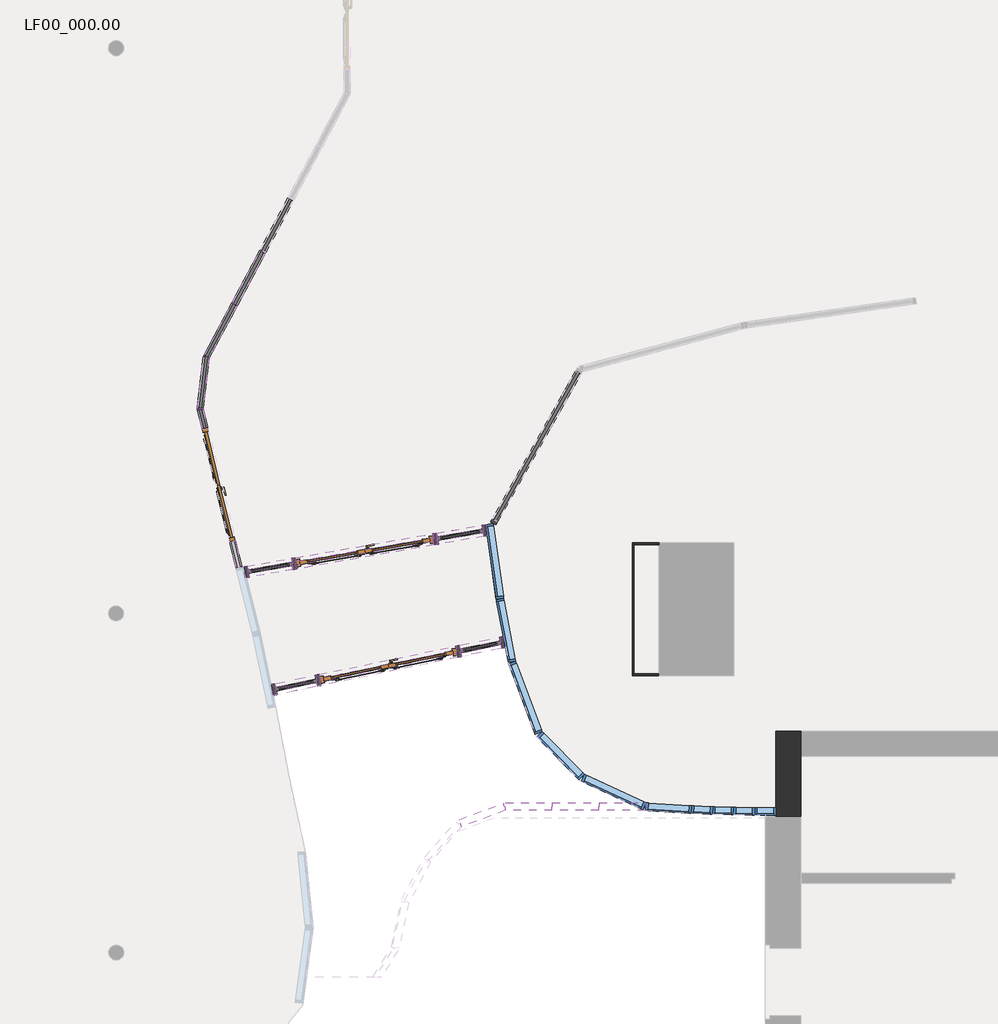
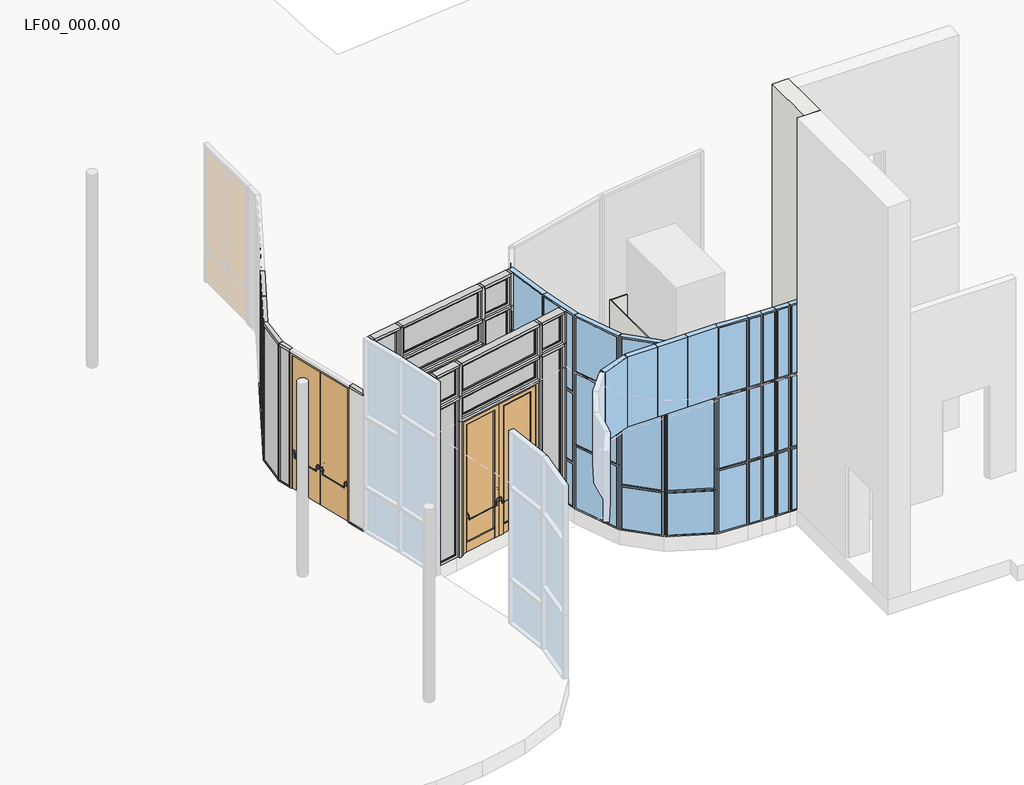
# One storey, part 2 of 8: 57 members, 18 plates, 14 windows, 4 walls, 3 doors.
"""IFC4 building model written with IfcOpenShell, lengths in millimetres."""

from ifc_helpers import new_model, si_unit, origin, origin_with_axes, place, context, project, spatial, polyline, outline, extrude, faceted_brep, transform, mapped, element, save
from components import door_f6d3ca97, ve_154_4ed43ff9, montante_rettangolare_ac_025x025_ae409ff8, montante_rettangolare_ac_025x025_ba0b5886, montante_rettangolare_ac_025x025_25a4d1a1, montante_rettangolare_ac_025x025_28f09506, montante_rettangolare_ac_025x025_21ed5f5e, montante_rettangolare_ac_025x025_67f37333, montante_rettangolare_ac_025x025_8a5c9500, montante_rettangolare_ac_025x025_512be482, montante_rettangolare_ac_025x025_d0ddf7e4, montante_rettangolare_ac_025x025_b97b00cb, montante_rettangolare_ac_025x025_64329925, montante_rettangolare_ac_025x025_9704a091, montante_rettangolare_ac_025x025_64d38db8, montante_rettangolare_ac_025x025_a43bc5c3, montante_rettangolare_ac_080x010_85614832, montante_rettangolare_ac_080x010_f14e0e64, montante_rettangolare_ac_080x020_0aace36a, montante_rettangolare_ac_080x020_0cad4226, montante_rettangolare_ac_080x020_8fa086c5, montante_rettangolare_ac_080x020_566639ae, montante_rettangolare_ac_080x020_745d10ed, montante_rettangolare_ac_080x050_10f1333b, montante_rettangolare_ac_080x050_40be3790, montante_rettangolare_ac_080x050_321416b7, montante_rettangolare_ac_080x050_0467c740, montante_rettangolare_ac_080x050_3b2be03d, montante_rettangolare_ac_080x050_6bba0ead, montante_rettangolare_ac_080x050_4a988d0e, al_005_dea4e61d, al_005_716bf069, al_005_3c8699a7, al_005_14935a9d, al_005_6a2d727c, ve3_036_90e3407d, ve3_036_397baf72, ve3_036_28023d53, ve3_036_5d8ee60f, ve3_036_85d96793, ve_005_c46f1006, ve_005_f4ff7d61, ve_005_d4007ce6, ve_005_b225966d, ve_005_ac013490, window_1ec7cec5, window_26246464, window_1ea6608f, window_8ab5537a, window_40431090, window_19409f7d, window_feeec594, al_62_ab90a766

model = new_model("IFC4")

# Units and contexts
model_context = context("Model", 3, world=origin())
ifc_project = project(units=[si_unit("LENGTHUNIT", "METRE", prefix="MILLI")], contexts=[model_context])

# Site, building, storey
site = spatial("IfcSite", under=ifc_project)
building = spatial("IfcBuilding", under=site)
storey = spatial("IfcBuildingStorey", under=building, Name="LF00_000.00", Elevation=0.0)

# Doors
placement = place(None, origin())
door_shape = door_f6d3ca97(model_context)
element("IfcDoor", 1, ObjectType="TRP_CP_ARC_PO_2B_PM : AL_VE_005", at=placement, inside=storey, context=model_context, shape_type="MappedRepresentation", body=[
    mapped(door_shape, transform((-90413.2062579, 2119.845194, 0.0), x_axis=(0.9792416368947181, 0.2026963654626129, 0.0), y_axis=(-0.2026963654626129, 0.9792416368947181, 0.0), z_axis=(0.0, 0.0, 1.0))),
])
element("IfcDoor", 2, ObjectType="TRP_CP_ARC_PO_2B_PM : AL_VE_005", at=placement, inside=storey, context=model_context, shape_type="MappedRepresentation", body=[
    mapped(door_shape, transform((-90723.753125, 3639.8337455, 0.0), x_axis=(0.9851406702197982, 0.17174941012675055, 0.0), y_axis=(-0.17174941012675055, 0.9851406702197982, 0.0), z_axis=(0.0, 0.0, 1.0))),
])
ve_154_shape = ve_154_4ed43ff9(model_context)
element("IfcDoor", 3, ObjectType="TRP_CP_ARC_PO_2B_RE : VE_154", at=placement, inside=storey, context=model_context, shape_type="MappedRepresentation", body=[
    mapped(ve_154_shape, transform((-92664.5246204, 4522.3687385, 0.0), x_axis=(0.23693617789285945, -0.9715252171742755, 0.0), y_axis=(0.9715252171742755, 0.23693617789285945, 0.0), z_axis=(0.0, 0.0, 1.0))),
])

# Members
montante_rettangolare_ac_025x025_shape = montante_rettangolare_ac_025x025_ae409ff8(model_context)
element("IfcMember", 4, ObjectType="Montante rettangolare : AC_025x025", at=placement, inside=storey, context=model_context, shape_type="MappedRepresentation", body=[
    mapped(montante_rettangolare_ac_025x025_shape, transform((-91956.585778, 1800.3761197, 4199.970898), x_axis=(-0.9792416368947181, -0.2026963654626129, 0.0), y_axis=(0.2026963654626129, -0.9792416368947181, 0.0), z_axis=(0.0, 0.0, 1.0))),
])
element("IfcMember", 5, ObjectType="Montante rettangolare : AC_025x025", at=placement, inside=storey, context=model_context, shape_type="MappedRepresentation", body=[
    mapped(montante_rettangolare_ac_025x025_shape, transform((-92324.6067141, 3360.7409541, 4199.970898), x_axis=(-0.9851406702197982, -0.17174941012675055, 0.0), y_axis=(0.17174941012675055, -0.9851406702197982, 0.0), z_axis=(0.0, 0.0, 1.0))),
])
element("IfcMember", 6, ObjectType="Montante rettangolare : AC_025x025", at=placement, inside=storey, context=model_context, shape_type="MappedRepresentation", body=[
    mapped(montante_rettangolare_ac_025x025_shape, transform((-88873.9324728, 2438.4644091, 3500.0), x_axis=(0.9792416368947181, 0.2026963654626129, 0.0), y_axis=(0.2026963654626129, -0.9792416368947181, 0.0), z_axis=(0.0, 0.0, -1.0))),
])
element("IfcMember", 7, ObjectType="Montante rettangolare : AC_025x025", at=placement, inside=storey, context=model_context, shape_type="MappedRepresentation", body=[
    mapped(montante_rettangolare_ac_025x025_shape, transform((-89107.5816752, 3921.5970526, 3500.0), x_axis=(0.9851406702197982, 0.17174941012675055, 0.0), y_axis=(0.17174941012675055, -0.9851406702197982, 0.0), z_axis=(0.0, 0.0, -1.0))),
])
montante_rettangolare_ac_025x025_2_shape = montante_rettangolare_ac_025x025_ba0b5886(model_context)
element("IfcMember", 8, ObjectType="Montante rettangolare : AC_025x025", at=placement, inside=storey, context=model_context, shape_type="MappedRepresentation", body=[
    mapped(montante_rettangolare_ac_025x025_2_shape, transform((-91343.4858129, 1927.2836469, 3500.0), x_axis=(0.9792416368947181, 0.2026963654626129, 0.0), y_axis=(0.2026963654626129, -0.9792416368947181, 0.0), z_axis=(0.0, 0.0, -1.0))),
])
element("IfcMember", 9, ObjectType="Montante rettangolare : AC_025x025", at=placement, inside=storey, context=model_context, shape_type="MappedRepresentation", body=[
    mapped(montante_rettangolare_ac_025x025_2_shape, transform((-89482.9267028, 2312.4067412, 3500.0), x_axis=(0.9792416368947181, 0.2026963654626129, 0.0), y_axis=(0.2026963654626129, -0.9792416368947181, 0.0), z_axis=(0.0, 0.0, -1.0))),
])
element("IfcMember", 10, ObjectType="Montante rettangolare : AC_025x025", at=placement, inside=storey, context=model_context, shape_type="MappedRepresentation", body=[
    mapped(montante_rettangolare_ac_025x025_2_shape, transform((-91665.6507525, 3475.6233268, 3500.0), x_axis=(0.9851406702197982, 0.17174941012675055, 0.0), y_axis=(0.17174941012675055, -0.9851406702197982, 0.0), z_axis=(0.0, 0.0, -1.0))),
])
element("IfcMember", 11, ObjectType="Montante rettangolare : AC_025x025", at=placement, inside=storey, context=model_context, shape_type="MappedRepresentation", body=[
    mapped(montante_rettangolare_ac_025x025_2_shape, transform((-89793.8834791, 3801.9472061, 3500.0), x_axis=(0.9851406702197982, 0.17174941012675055, 0.0), y_axis=(0.17174941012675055, -0.9851406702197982, 0.0), z_axis=(0.0, 0.0, -1.0))),
])
montante_rettangolare_ac_025x025_3_shape = montante_rettangolare_ac_025x025_25a4d1a1(model_context)
element("IfcMember", 12, ObjectType="Montante rettangolare : AC_025x025", at=placement, inside=storey, context=model_context, shape_type="MappedRepresentation", body=[
    mapped(montante_rettangolare_ac_025x025_3_shape, transform((-89507.4077437, 2307.3393321, 3500.0), x_axis=(0.0, 0.0, 1.0), y_axis=(0.20269636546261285, -0.9792416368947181, 0.0), z_axis=(0.9792416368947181, 0.20269636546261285, 0.0))),
])
element("IfcMember", 13, ObjectType="Montante rettangolare : AC_025x025", at=placement, inside=storey, context=model_context, shape_type="MappedRepresentation", body=[
    mapped(montante_rettangolare_ac_025x025_3_shape, transform((-89507.4077437, 2307.3393321, 4199.970898), x_axis=(0.0, 0.0, 1.0), y_axis=(0.20269636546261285, -0.9792416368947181, 0.0), z_axis=(0.9792416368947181, 0.20269636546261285, 0.0))),
])
element("IfcMember", 14, ObjectType="Montante rettangolare : AC_025x025", at=placement, inside=storey, context=model_context, shape_type="MappedRepresentation", body=[
    mapped(montante_rettangolare_ac_025x025_3_shape, transform((-89812.498005, 3798.7019499, 3500.0), x_axis=(0.0, 0.0, 1.0), y_axis=(0.1717494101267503, -0.9851406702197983, 0.0), z_axis=(0.9851406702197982, 0.17174941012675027, 0.0))),
])
element("IfcMember", 15, ObjectType="Montante rettangolare : AC_025x025", at=placement, inside=storey, context=model_context, shape_type="MappedRepresentation", body=[
    mapped(montante_rettangolare_ac_025x025_3_shape, transform((-89818.5119958, 3797.6534708, 4199.970898), x_axis=(0.0, 0.0, 1.0), y_axis=(0.17174941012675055, -0.9851406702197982, 0.0), z_axis=(0.9851406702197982, 0.17174941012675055, 0.0))),
])
montante_rettangolare_ac_025x025_4_shape = montante_rettangolare_ac_025x025_28f09506(model_context)
element("IfcMember", 16, ObjectType="Montante rettangolare : AC_025x025", at=placement, inside=storey, context=model_context, shape_type="MappedRepresentation", body=[
    mapped(montante_rettangolare_ac_025x025_4_shape, transform((-89507.4077437, 2307.3393321, 2962.0), x_axis=(0.0, 0.0, 1.0), y_axis=(0.20269636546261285, -0.9792416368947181, 0.0), z_axis=(0.9792416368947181, 0.20269636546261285, 0.0))),
])
element("IfcMember", 17, ObjectType="Montante rettangolare : AC_025x025", at=placement, inside=storey, context=model_context, shape_type="MappedRepresentation", body=[
    mapped(montante_rettangolare_ac_025x025_4_shape, transform((-89812.498005, 3798.7019499, 2962.0), x_axis=(0.0, 0.0, 1.0), y_axis=(0.1717494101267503, -0.9851406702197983, 0.0), z_axis=(0.9851406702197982, 0.17174941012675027, 0.0))),
])
montante_rettangolare_ac_025x025_5_shape = montante_rettangolare_ac_025x025_21ed5f5e(model_context)
element("IfcMember", 18, ObjectType="Montante rettangolare : AC_025x025", at=placement, inside=storey, context=model_context, shape_type="MappedRepresentation", body=[
    mapped(montante_rettangolare_ac_025x025_5_shape, transform((-91956.585778, 1800.3761197, 3500.0), x_axis=(-0.9792416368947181, -0.2026963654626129, 0.0), y_axis=(0.2026963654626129, -0.9792416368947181, 0.0), z_axis=(0.0, 0.0, 1.0))),
])
element("IfcMember", 19, ObjectType="Montante rettangolare : AC_025x025", at=placement, inside=storey, context=model_context, shape_type="MappedRepresentation", body=[
    mapped(montante_rettangolare_ac_025x025_5_shape, transform((-92324.6067141, 3360.7409541, 3500.0), x_axis=(-0.9851406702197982, -0.17174941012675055, 0.0), y_axis=(0.17174941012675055, -0.9851406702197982, 0.0), z_axis=(0.0, 0.0, 1.0))),
])
element("IfcMember", 20, ObjectType="Montante rettangolare : AC_025x025", at=placement, inside=storey, context=model_context, shape_type="MappedRepresentation", body=[
    mapped(montante_rettangolare_ac_025x025_5_shape, transform((-88873.9324728, 2438.4644091, 2962.0), x_axis=(0.9792416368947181, 0.2026963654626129, 0.0), y_axis=(0.2026963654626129, -0.9792416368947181, 0.0), z_axis=(0.0, 0.0, -1.0))),
])
element("IfcMember", 21, ObjectType="Montante rettangolare : AC_025x025", at=placement, inside=storey, context=model_context, shape_type="MappedRepresentation", body=[
    mapped(montante_rettangolare_ac_025x025_5_shape, transform((-89107.5816752, 3921.5970526, 2962.0), x_axis=(0.9851406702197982, 0.17174941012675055, 0.0), y_axis=(0.17174941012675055, -0.9851406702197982, 0.0), z_axis=(0.0, 0.0, -1.0))),
])
montante_rettangolare_ac_025x025_6_shape = montante_rettangolare_ac_025x025_67f37333(model_context)
element("IfcMember", 22, ObjectType="Montante rettangolare : AC_025x025", at=placement, inside=storey, context=model_context, shape_type="MappedRepresentation", body=[
    mapped(montante_rettangolare_ac_025x025_6_shape, transform((-91367.9668538, 1922.2162377, 3500.0), x_axis=(0.0, 0.0, 1.0), y_axis=(0.20269636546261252, -0.9792416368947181, 0.0), z_axis=(0.9792416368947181, 0.20269636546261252, 0.0))),
])
element("IfcMember", 23, ObjectType="Montante rettangolare : AC_025x025", at=placement, inside=storey, context=model_context, shape_type="MappedRepresentation", body=[
    mapped(montante_rettangolare_ac_025x025_6_shape, transform((-91367.9668538, 1922.2162377, 4199.970898), x_axis=(0.0, 0.0, 1.0), y_axis=(0.20269636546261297, -0.9792416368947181, 0.0), z_axis=(0.9792416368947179, 0.2026963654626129, 0.0))),
])
montante_rettangolare_ac_025x025_7_shape = montante_rettangolare_ac_025x025_8a5c9500(model_context)
element("IfcMember", 24, ObjectType="Montante rettangolare : AC_025x025", at=placement, inside=storey, context=model_context, shape_type="MappedRepresentation", body=[
    mapped(montante_rettangolare_ac_025x025_7_shape, transform((-88922.8945546, 2428.3295908, 3500.0), x_axis=(0.0, 0.0, 1.0), y_axis=(0.20269636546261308, -0.9792416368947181, 0.0), z_axis=(0.9792416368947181, 0.20269636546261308, 0.0))),
])
element("IfcMember", 25, ObjectType="Montante rettangolare : AC_025x025", at=placement, inside=storey, context=model_context, shape_type="MappedRepresentation", body=[
    mapped(montante_rettangolare_ac_025x025_7_shape, transform((-88922.8945546, 2428.3295908, 4199.970898), x_axis=(0.0, 0.0, 1.0), y_axis=(0.20269636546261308, -0.9792416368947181, 0.0), z_axis=(0.9792416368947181, 0.20269636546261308, 0.0))),
])
montante_rettangolare_ac_025x025_8_shape = montante_rettangolare_ac_025x025_512be482(model_context)
element("IfcMember", 26, ObjectType="Montante rettangolare : AC_025x025", at=placement, inside=storey, context=model_context, shape_type="MappedRepresentation", body=[
    mapped(montante_rettangolare_ac_025x025_8_shape, transform((-91343.4858129, 1927.2836469, 2962.0), x_axis=(0.9792416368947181, 0.2026963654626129, 0.0), y_axis=(0.2026963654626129, -0.9792416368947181, 0.0), z_axis=(0.0, 0.0, -1.0))),
])
element("IfcMember", 27, ObjectType="Montante rettangolare : AC_025x025", at=placement, inside=storey, context=model_context, shape_type="MappedRepresentation", body=[
    mapped(montante_rettangolare_ac_025x025_8_shape, transform((-89482.9267028, 2312.4067412, 2962.0), x_axis=(0.9792416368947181, 0.2026963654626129, 0.0), y_axis=(0.2026963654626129, -0.9792416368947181, 0.0), z_axis=(0.0, 0.0, -1.0))),
])
element("IfcMember", 28, ObjectType="Montante rettangolare : AC_025x025", at=placement, inside=storey, context=model_context, shape_type="MappedRepresentation", body=[
    mapped(montante_rettangolare_ac_025x025_8_shape, transform((-91659.6367617, 3476.6718059, 2962.0), x_axis=(0.9851406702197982, 0.17174941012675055, 0.0), y_axis=(0.17174941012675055, -0.9851406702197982, 0.0), z_axis=(0.0, 0.0, -1.0))),
])
element("IfcMember", 29, ObjectType="Montante rettangolare : AC_025x025", at=placement, inside=storey, context=model_context, shape_type="MappedRepresentation", body=[
    mapped(montante_rettangolare_ac_025x025_8_shape, transform((-89787.8694883, 3802.9956852, 2962.0), x_axis=(0.9851406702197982, 0.17174941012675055, 0.0), y_axis=(0.17174941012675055, -0.9851406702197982, 0.0), z_axis=(0.0, 0.0, -1.0))),
])
montante_rettangolare_ac_025x025_9_shape = montante_rettangolare_ac_025x025_d0ddf7e4(model_context)
element("IfcMember", 30, ObjectType="Montante rettangolare : AC_025x025", at=placement, inside=storey, context=model_context, shape_type="MappedRepresentation", body=[
    mapped(montante_rettangolare_ac_025x025_9_shape, transform((-91343.4858129, 1927.2836469, 0.0), x_axis=(0.9792416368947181, 0.2026963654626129, 0.0), y_axis=(0.2026963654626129, -0.9792416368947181, 0.0), z_axis=(0.0, 0.0, -1.0))),
])
element("IfcMember", 31, ObjectType="Montante rettangolare : AC_025x025", at=placement, inside=storey, context=model_context, shape_type="MappedRepresentation", body=[
    mapped(montante_rettangolare_ac_025x025_9_shape, transform((-89482.9267028, 2312.4067412, 0.0), x_axis=(0.9792416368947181, 0.2026963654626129, 0.0), y_axis=(0.2026963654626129, -0.9792416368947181, 0.0), z_axis=(0.0, 0.0, -1.0))),
])
element("IfcMember", 32, ObjectType="Montante rettangolare : AC_025x025", at=placement, inside=storey, context=model_context, shape_type="MappedRepresentation", body=[
    mapped(montante_rettangolare_ac_025x025_9_shape, transform((-91659.6367617, 3476.6718059, 0.0), x_axis=(0.9851406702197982, 0.17174941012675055, 0.0), y_axis=(0.17174941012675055, -0.9851406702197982, 0.0), z_axis=(0.0, 0.0, -1.0))),
])
element("IfcMember", 33, ObjectType="Montante rettangolare : AC_025x025", at=placement, inside=storey, context=model_context, shape_type="MappedRepresentation", body=[
    mapped(montante_rettangolare_ac_025x025_9_shape, transform((-89787.8694883, 3802.9956852, 0.0), x_axis=(0.9851406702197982, 0.17174941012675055, 0.0), y_axis=(0.17174941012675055, -0.9851406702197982, 0.0), z_axis=(0.0, 0.0, -1.0))),
])
montante_rettangolare_ac_025x025_10_shape = montante_rettangolare_ac_025x025_b97b00cb(model_context)
element("IfcMember", 34, ObjectType="Montante rettangolare : AC_025x025", at=placement, inside=storey, context=model_context, shape_type="MappedRepresentation", body=[
    mapped(montante_rettangolare_ac_025x025_10_shape, transform((-88873.9324728, 2438.4644091, 0.0), x_axis=(0.9792416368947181, 0.2026963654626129, 0.0), y_axis=(0.2026963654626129, -0.9792416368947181, 0.0), z_axis=(0.0, 0.0, -1.0))),
])
element("IfcMember", 35, ObjectType="Montante rettangolare : AC_025x025", at=placement, inside=storey, context=model_context, shape_type="MappedRepresentation", body=[
    mapped(montante_rettangolare_ac_025x025_10_shape, transform((-89107.5816752, 3921.5970526, 0.0), x_axis=(0.9851406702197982, 0.17174941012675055, 0.0), y_axis=(0.17174941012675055, -0.9851406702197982, 0.0), z_axis=(0.0, 0.0, -1.0))),
])
element("IfcMember", 36, ObjectType="Montante rettangolare : AC_025x025", at=placement, inside=storey, context=model_context, shape_type="MappedRepresentation", body=[
    mapped(montante_rettangolare_ac_025x025_10_shape, transform((-91956.585778, 1800.3761197, 2962.0), x_axis=(-0.9792416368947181, -0.2026963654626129, 0.0), y_axis=(0.2026963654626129, -0.9792416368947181, 0.0), z_axis=(0.0, 0.0, 1.0))),
])
element("IfcMember", 37, ObjectType="Montante rettangolare : AC_025x025", at=placement, inside=storey, context=model_context, shape_type="MappedRepresentation", body=[
    mapped(montante_rettangolare_ac_025x025_10_shape, transform((-92324.6067141, 3360.7409541, 2962.0), x_axis=(-0.9851406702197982, -0.17174941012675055, 0.0), y_axis=(0.17174941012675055, -0.9851406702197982, 0.0), z_axis=(0.0, 0.0, 1.0))),
])
montante_rettangolare_ac_025x025_11_shape = montante_rettangolare_ac_025x025_64329925(model_context)
element("IfcMember", 38, ObjectType="Montante rettangolare : AC_025x025", at=placement, inside=storey, context=model_context, shape_type="MappedRepresentation", body=[
    mapped(montante_rettangolare_ac_025x025_11_shape, transform((-89156.8387087, 3913.0095821, 4199.970898), x_axis=(0.0, 0.0, 1.0), y_axis=(0.17174941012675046, -0.9851406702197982, 0.0), z_axis=(0.9851406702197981, 0.17174941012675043, 0.0))),
])
montante_rettangolare_ac_025x025_12_shape = montante_rettangolare_ac_025x025_9704a091(model_context)
element("IfcMember", 39, ObjectType="Montante rettangolare : AC_025x025", at=placement, inside=storey, context=model_context, shape_type="MappedRepresentation", body=[
    mapped(montante_rettangolare_ac_025x025_12_shape, transform((-91690.2792692, 3471.3295916, 4199.970898), x_axis=(0.0, 0.0, 1.0), y_axis=(0.17174941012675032, -0.9851406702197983, 0.0), z_axis=(0.9851406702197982, 0.1717494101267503, 0.0))),
])
montante_rettangolare_ac_025x025_13_shape = montante_rettangolare_ac_025x025_64d38db8(model_context)
element("IfcMember", 40, ObjectType="Montante rettangolare : AC_025x025", at=placement, inside=storey, context=model_context, shape_type="MappedRepresentation", body=[
    mapped(montante_rettangolare_ac_025x025_13_shape, transform((-91684.2652784, 3472.3780707, 3500.0), x_axis=(0.0, 0.0, 1.0), y_axis=(0.1717494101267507, -0.9851406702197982, 0.0), z_axis=(0.9851406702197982, 0.1717494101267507, 0.0))),
])
montante_rettangolare_ac_025x025_14_shape = montante_rettangolare_ac_025x025_a43bc5c3(model_context)
element("IfcMember", 41, ObjectType="Montante rettangolare : AC_025x025", at=placement, inside=storey, context=model_context, shape_type="MappedRepresentation", body=[
    mapped(montante_rettangolare_ac_025x025_14_shape, transform((-89156.8387087, 3913.0095821, 3500.0), x_axis=(0.0, 0.0, 1.0), y_axis=(0.17174941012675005, -0.9851406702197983, 0.0), z_axis=(0.9851406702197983, 0.17174941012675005, 0.0))),
])
montante_rettangolare_ac_080x010_shape = montante_rettangolare_ac_080x010_85614832(model_context)
element("IfcMember", 42, ObjectType="Montante rettangolare : AC_080x010", at=placement, inside=storey, context=model_context, shape_type="MappedRepresentation", body=[
    mapped(montante_rettangolare_ac_080x010_shape, transform((-92845.7807965, 5265.5855297, 0.0), x_axis=(0.23693617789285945, -0.9715252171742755, 0.0), y_axis=(-0.9715252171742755, -0.23693617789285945, 0.0), z_axis=(0.0, 0.0, -1.0))),
])
montante_rettangolare_ac_080x010_2_shape = montante_rettangolare_ac_080x010_f14e0e64(model_context)
element("IfcMember", 43, ObjectType="Montante rettangolare : AC_080x010", at=placement, inside=storey, context=model_context, shape_type="MappedRepresentation", body=[
    mapped(montante_rettangolare_ac_080x010_2_shape, transform((-92451.6523248, 6924.7428228, 20.0), x_axis=(0.47167924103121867, 0.8817702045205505, 0.0), y_axis=(0.8817702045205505, -0.47167924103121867, 0.0), z_axis=(0.0, 0.0, -1.0))),
])
element("IfcMember", 44, ObjectType="Montante rettangolare : AC_080x010", at=placement, inside=storey, context=model_context, shape_type="MappedRepresentation", body=[
    mapped(montante_rettangolare_ac_080x010_2_shape, transform((-92079.0257243, 7621.3412844, 20.0), x_axis=(0.47167924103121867, 0.8817702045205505, 0.0), y_axis=(0.8817702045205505, -0.47167924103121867, 0.0), z_axis=(0.0, 0.0, -1.0))),
])
element("IfcMember", 45, ObjectType="Montante rettangolare : AC_080x010", at=placement, inside=storey, context=model_context, shape_type="MappedRepresentation", body=[
    mapped(montante_rettangolare_ac_080x010_shape, transform((-92910.6090871, 5531.4052946, 0.0), x_axis=(-0.1158875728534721, -0.9932623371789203, 0.0), y_axis=(-0.9932623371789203, 0.1158875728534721, 0.0), z_axis=(0.0, 0.0, -1.0))),
])
element("IfcMember", 46, ObjectType="Montante rettangolare : AC_080x010", at=placement, inside=storey, context=model_context, shape_type="MappedRepresentation", body=[
    mapped(montante_rettangolare_ac_080x010_2_shape, transform((-92910.6090871, 5531.4052946, 2950.0), x_axis=(-0.23693617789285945, 0.9715252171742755, 0.0), y_axis=(-0.9715252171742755, -0.23693617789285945, 0.0), z_axis=(0.0, 0.0, 1.0))),
])
element("IfcMember", 47, ObjectType="Montante rettangolare : AC_080x010", at=placement, inside=storey, context=model_context, shape_type="MappedRepresentation", body=[
    mapped(montante_rettangolare_ac_080x010_shape, transform((-92830.7236551, 6216.0964051, 2950.0), x_axis=(-0.47167924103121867, -0.8817702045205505, 0.0), y_axis=(0.8817702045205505, -0.47167924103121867, 0.0), z_axis=(0.0, 0.0, 1.0))),
])
montante_rettangolare_ac_080x020_shape = montante_rettangolare_ac_080x020_0aace36a(model_context)
element("IfcMember", 48, ObjectType="Montante rettangolare : AC_080x020", at=placement, inside=storey, context=model_context, shape_type="MappedRepresentation", body=[
    mapped(montante_rettangolare_ac_080x020_shape, transform((-92830.7236551, 6216.0964051, 0.0), x_axis=(0.0, 0.0, -1.0), y_axis=(-0.9932623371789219, 0.11588757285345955, 0.0), z_axis=(0.11588757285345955, 0.9932623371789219, 0.0))),
])
montante_rettangolare_ac_080x020_2_shape = montante_rettangolare_ac_080x020_0cad4226(model_context)
element("IfcMember", 49, ObjectType="Montante rettangolare : AC_080x020", at=placement, inside=storey, context=model_context, shape_type="MappedRepresentation", body=[
    mapped(montante_rettangolare_ac_080x020_2_shape, transform((-92826.0068627, 6224.9141071, 0.0), x_axis=(0.0, 0.0, -1.0), y_axis=(0.8817702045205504, -0.47167924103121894, 0.0), z_axis=(-0.4716792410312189, -0.8817702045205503, 0.0))),
])
montante_rettangolare_ac_080x020_3_shape = montante_rettangolare_ac_080x020_8fa086c5(model_context)
element("IfcMember", 50, ObjectType="Montante rettangolare : AC_080x020", at=placement, inside=storey, context=model_context, shape_type="MappedRepresentation", body=[
    mapped(montante_rettangolare_ac_080x020_3_shape, transform((-92079.0257243, 7621.3412844, 0.0), x_axis=(0.0, 0.0, -1.0), y_axis=(0.8817702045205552, -0.4716792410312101, 0.0), z_axis=(-0.47167924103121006, -0.8817702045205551, 0.0))),
])
element("IfcMember", 51, ObjectType="Montante rettangolare : AC_080x020", at=placement, inside=storey, context=model_context, shape_type="MappedRepresentation", body=[
    mapped(montante_rettangolare_ac_080x020_3_shape, transform((-92451.6523248, 6924.7428228, 0.0), x_axis=(0.0, 0.0, -1.0), y_axis=(0.8817702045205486, -0.47167924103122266, 0.0), z_axis=(-0.47167924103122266, -0.8817702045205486, 0.0))),
])
montante_rettangolare_ac_080x020_4_shape = montante_rettangolare_ac_080x020_566639ae(model_context)
element("IfcMember", 52, ObjectType="Montante rettangolare : AC_080x020", at=placement, inside=storey, context=model_context, shape_type="MappedRepresentation", body=[
    mapped(montante_rettangolare_ac_080x020_4_shape, transform((-92910.6090871, 5531.4052946, 0.0), x_axis=(0.0, 0.0, -1.0), y_axis=(-0.9715252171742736, -0.23693617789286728, 0.0), z_axis=(-0.23693617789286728, 0.9715252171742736, 0.0))),
])
montante_rettangolare_ac_080x020_5_shape = montante_rettangolare_ac_080x020_745d10ed(model_context)
element("IfcMember", 53, ObjectType="Montante rettangolare : AC_080x020", at=placement, inside=storey, context=model_context, shape_type="MappedRepresentation", body=[
    mapped(montante_rettangolare_ac_080x020_5_shape, transform((-92483.2684443, 3779.1519474, 0.0), x_axis=(0.0, 0.0, -1.0), y_axis=(-0.9715252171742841, -0.2369361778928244, 0.0), z_axis=(-0.23693617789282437, 0.971525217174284, 0.0))),
])
montante_rettangolare_ac_080x050_shape = montante_rettangolare_ac_080x050_10f1333b(model_context)
element("IfcMember", 54, ObjectType="Montante rettangolare : AC_080x050", at=placement, inside=storey, context=model_context, shape_type="MappedRepresentation", body=[
    mapped(montante_rettangolare_ac_080x050_shape, transform((-88996.8690015, 4052.9214123, 0.0), x_axis=(0.0, 0.0, -1.0), y_axis=(0.8710132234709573, -0.49125956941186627, 0.0), z_axis=(-0.49125956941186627, -0.8710132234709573, 0.0))),
])
montante_rettangolare_ac_080x050_2_shape = montante_rettangolare_ac_080x050_40be3790(model_context)
element("IfcMember", 55, ObjectType="Montante rettangolare : AC_080x050", at=placement, inside=storey, context=model_context, shape_type="MappedRepresentation", body=[
    mapped(montante_rettangolare_ac_080x050_2_shape, transform((-89021.43198, 4009.3707511, 3000.0), x_axis=(-0.4912595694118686, -0.871013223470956, 0.0), y_axis=(0.871013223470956, -0.4912595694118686, 0.0), z_axis=(0.0, 0.0, 1.0))),
])
montante_rettangolare_ac_080x050_3_shape = montante_rettangolare_ac_080x050_321416b7(model_context)
element("IfcMember", 56, ObjectType="Montante rettangolare : AC_080x050", at=placement, inside=storey, context=model_context, shape_type="MappedRepresentation", body=[
    mapped(montante_rettangolare_ac_080x050_3_shape, transform((-92079.0257243, 7621.3412844, 3000.0), x_axis=(0.0, 0.0, 1.0), y_axis=(0.8817702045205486, -0.47167924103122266, 0.0), z_axis=(0.47167924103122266, 0.8817702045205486, 0.0))),
])
montante_rettangolare_ac_080x050_4_shape = montante_rettangolare_ac_080x050_0467c740(model_context)
element("IfcMember", 57, ObjectType="Montante rettangolare : AC_080x050", at=placement, inside=storey, context=model_context, shape_type="MappedRepresentation", body=[
    mapped(montante_rettangolare_ac_080x050_4_shape, transform((-92395.6020585, 3419.687617, 3000.0), x_axis=(0.0, 0.0, 1.0), y_axis=(-0.971525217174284, -0.23693617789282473, 0.0), z_axis=(0.23693617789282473, -0.971525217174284, 0.0))),
])
montante_rettangolare_ac_080x050_5_shape = montante_rettangolare_ac_080x050_3b2be03d(model_context)
element("IfcMember", 58, ObjectType="Montante rettangolare : AC_080x050", at=placement, inside=storey, context=model_context, shape_type="MappedRepresentation", body=[
    mapped(montante_rettangolare_ac_080x050_5_shape, transform((-92845.7807965, 5265.5855297, 3000.0), x_axis=(0.0, 0.0, 1.0), y_axis=(-0.9715252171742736, -0.23693617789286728, 0.0), z_axis=(0.23693617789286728, -0.9715252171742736, 0.0))),
])
montante_rettangolare_ac_080x050_6_shape = montante_rettangolare_ac_080x050_6bba0ead(model_context)
element("IfcMember", 59, ObjectType="Montante rettangolare : AC_080x050", at=placement, inside=storey, context=model_context, shape_type="MappedRepresentation", body=[
    mapped(montante_rettangolare_ac_080x050_6_shape, transform((-92910.6090871, 5531.4052946, 3000.0), x_axis=(0.0, 0.0, 1.0), y_axis=(-0.9932623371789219, 0.11588757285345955, 0.0), z_axis=(-0.11588757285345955, -0.9932623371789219, 0.0))),
])
montante_rettangolare_ac_080x050_7_shape = montante_rettangolare_ac_080x050_4a988d0e(model_context)
element("IfcMember", 60, ObjectType="Montante rettangolare : AC_080x050", at=placement, inside=storey, context=model_context, shape_type="MappedRepresentation", body=[
    mapped(montante_rettangolare_ac_080x050_7_shape, transform((-92451.6523248, 6924.7428228, 3000.0), x_axis=(0.0, 0.0, 1.0), y_axis=(0.8817702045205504, -0.47167924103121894, 0.0), z_axis=(0.4716792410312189, 0.8817702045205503, 0.0))),
])

# Plates
al_005_shape = al_005_dea4e61d(model_context)
element("IfcPlate", 61, ObjectType="TRP_CP_ARC_PF_RE : AL_005", at=placement, inside=storey, context=model_context, shape_type="MappedRepresentation", body=[
    mapped(al_005_shape, transform((-91637.795275, 1866.3635879, 3500.0), x_axis=(0.9792416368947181, 0.2026963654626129, 0.0), y_axis=(-0.2026963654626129, 0.9792416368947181, 0.0), z_axis=(0.0, 0.0, 1.0))),
])
al_005_2_shape = al_005_716bf069(model_context)
element("IfcPlate", 62, ObjectType="TRP_CP_ARC_PF_RE : AL_005", at=placement, inside=storey, context=model_context, shape_type="MappedRepresentation", body=[
    mapped(al_005_2_shape, transform((-90413.2062579, 2119.845194, 3500.0), x_axis=(0.9792416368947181, 0.2026963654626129, 0.0), y_axis=(-0.2026963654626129, 0.9792416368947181, 0.0), z_axis=(0.0, 0.0, 1.0))),
])
element("IfcPlate", 63, ObjectType="TRP_CP_ARC_PF_RE : AL_005", at=placement, inside=storey, context=model_context, shape_type="MappedRepresentation", body=[
    mapped(al_005_2_shape, transform((-90729.7671158, 3638.7852665, 3500.0), x_axis=(0.9851406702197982, 0.17174941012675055, 0.0), y_axis=(-0.17174941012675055, 0.9851406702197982, 0.0), z_axis=(0.0, 0.0, 1.0))),
])
al_005_3_shape = al_005_3c8699a7(model_context)
element("IfcPlate", 64, ObjectType="TRP_CP_ARC_PF_RE : AL_005", at=placement, inside=storey, context=model_context, shape_type="MappedRepresentation", body=[
    mapped(al_005_3_shape, transform((-89190.6701083, 2372.9018706, 3500.0), x_axis=(0.9792416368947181, 0.2026963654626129, 0.0), y_axis=(-0.2026963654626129, 0.9792416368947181, 0.0), z_axis=(0.0, 0.0, 1.0))),
])
al_005_4_shape = al_005_14935a9d(model_context)
element("IfcPlate", 65, ObjectType="TRP_CP_ARC_PF_RE : AL_005", at=placement, inside=storey, context=model_context, shape_type="MappedRepresentation", body=[
    mapped(al_005_4_shape, transform((-91982.8144749, 3420.3290081, 3500.0), x_axis=(0.9851406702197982, 0.17174941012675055, 0.0), y_axis=(-0.17174941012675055, 0.9851406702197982, 0.0), z_axis=(0.0, 0.0, 1.0))),
])
al_005_5_shape = al_005_6a2d727c(model_context)
element("IfcPlate", 66, ObjectType="TRP_CP_ARC_PF_RE : AL_005", at=placement, inside=storey, context=model_context, shape_type="MappedRepresentation", body=[
    mapped(al_005_5_shape, transform((-89463.0468355, 3859.6252617, 3500.0), x_axis=(0.9851406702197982, 0.17174941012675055, 0.0), y_axis=(-0.17174941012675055, 0.9851406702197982, 0.0), z_axis=(0.0, 0.0, 1.0))),
])
ve3_036_shape = ve3_036_90e3407d(model_context)
element("IfcPlate", 67, ObjectType="TRP_CP_ARC_PF_RE_SE : VE3_036", at=placement, inside=storey, context=model_context, shape_type="MappedRepresentation", body=[
    mapped(ve3_036_shape, transform((-88444.5612487, 5032.1743084, 50.0), x_axis=(0.4912595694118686, 0.871013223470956, 0.0), y_axis=(-0.871013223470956, 0.4912595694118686, 0.0), z_axis=(0.0, 0.0, 1.0))),
])
ve3_036_2_shape = ve3_036_397baf72(model_context)
element("IfcPlate", 68, ObjectType="TRP_CP_ARC_PF_RE_SE : VE3_036", at=placement, inside=storey, context=model_context, shape_type="MappedRepresentation", body=[
    mapped(ve3_036_2_shape, transform((-92878.1949418, 5398.4954121, 20.0), x_axis=(0.23693617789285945, -0.9715252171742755, 0.0), y_axis=(0.9715252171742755, 0.23693617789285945, 0.0), z_axis=(0.0, 0.0, 1.0))),
])
ve3_036_3_shape = ve3_036_28023d53(model_context)
element("IfcPlate", 69, ObjectType="TRP_CP_ARC_PF_RE_SE : VE3_036", at=placement, inside=storey, context=model_context, shape_type="MappedRepresentation", body=[
    mapped(ve3_036_3_shape, transform((-92870.0869332, 5878.7171615, 20.0), x_axis=(-0.1158875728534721, -0.9932623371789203, 0.0), y_axis=(0.9932623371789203, -0.1158875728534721, 0.0), z_axis=(0.0, 0.0, 1.0))),
])
ve3_036_4_shape = ve3_036_5d8ee60f(model_context)
element("IfcPlate", 70, ObjectType="TRP_CP_ARC_PF_RE_SE : VE3_036", at=placement, inside=storey, context=model_context, shape_type="MappedRepresentation", body=[
    mapped(ve3_036_4_shape, transform((-92641.1879899, 6570.4196139, 20.0), x_axis=(0.47167924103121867, 0.8817702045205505, 0.0), y_axis=(-0.8817702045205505, 0.47167924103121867, 0.0), z_axis=(0.0, 0.0, 1.0))),
])
ve3_036_5_shape = ve3_036_85d96793(model_context)
element("IfcPlate", 71, ObjectType="TRP_CP_ARC_PF_RE_SE : VE3_036", at=placement, inside=storey, context=model_context, shape_type="MappedRepresentation", body=[
    mapped(ve3_036_5_shape, transform((-92267.6974208, 7268.6332026, 20.0), x_axis=(0.47167924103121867, 0.8817702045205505, 0.0), y_axis=(-0.8817702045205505, 0.47167924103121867, 0.0), z_axis=(0.0, 0.0, 1.0))),
])
element("IfcPlate", 72, ObjectType="TRP_CP_ARC_PF_RE_SE : VE3_036", at=placement, inside=storey, context=model_context, shape_type="MappedRepresentation", body=[
    mapped(ve3_036_5_shape, transform((-91895.0708203, 7965.2316641, 20.0), x_axis=(0.47167924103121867, 0.8817702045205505, 0.0), y_axis=(-0.8817702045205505, 0.47167924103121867, 0.0), z_axis=(0.0, 0.0, 1.0))),
])
ve_005_shape = ve_005_c46f1006(model_context)
element("IfcPlate", 73, ObjectType="TRP_CP_ARC_PF_RE : VE_005", at=placement, inside=storey, context=model_context, shape_type="MappedRepresentation", body=[
    mapped(ve_005_shape, transform((-91637.795275, 1866.3635879, 0.0), x_axis=(0.9792416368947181, 0.2026963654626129, 0.0), y_axis=(-0.2026963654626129, 0.9792416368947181, 0.0), z_axis=(0.0, 0.0, 1.0))),
])
ve_005_2_shape = ve_005_f4ff7d61(model_context)
element("IfcPlate", 74, ObjectType="TRP_CP_ARC_PF_RE : VE_005", at=placement, inside=storey, context=model_context, shape_type="MappedRepresentation", body=[
    mapped(ve_005_2_shape, transform((-90413.2062579, 2119.845194, 2987.0), x_axis=(0.9792416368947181, 0.2026963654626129, 0.0), y_axis=(-0.2026963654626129, 0.9792416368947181, 0.0), z_axis=(0.0, 0.0, 1.0))),
])
element("IfcPlate", 75, ObjectType="TRP_CP_ARC_PF_RE : VE_005", at=placement, inside=storey, context=model_context, shape_type="MappedRepresentation", body=[
    mapped(ve_005_2_shape, transform((-90723.753125, 3639.8337455, 2987.0), x_axis=(0.9851406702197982, 0.17174941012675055, 0.0), y_axis=(-0.17174941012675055, 0.9851406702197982, 0.0), z_axis=(0.0, 0.0, 1.0))),
])
ve_005_3_shape = ve_005_d4007ce6(model_context)
element("IfcPlate", 76, ObjectType="TRP_CP_ARC_PF_RE : VE_005", at=placement, inside=storey, context=model_context, shape_type="MappedRepresentation", body=[
    mapped(ve_005_3_shape, transform((-89190.6701083, 2372.9018706, 0.0), x_axis=(0.9792416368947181, 0.2026963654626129, 0.0), y_axis=(-0.2026963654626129, 0.9792416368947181, 0.0), z_axis=(0.0, 0.0, 1.0))),
])
ve_005_4_shape = ve_005_b225966d(model_context)
element("IfcPlate", 77, ObjectType="TRP_CP_ARC_PF_RE : VE_005", at=placement, inside=storey, context=model_context, shape_type="MappedRepresentation", body=[
    mapped(ve_005_4_shape, transform((-91979.8074795, 3420.8532476, 0.0), x_axis=(0.9851406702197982, 0.17174941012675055, 0.0), y_axis=(-0.17174941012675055, 0.9851406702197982, 0.0), z_axis=(0.0, 0.0, 1.0))),
])
ve_005_5_shape = ve_005_ac013490(model_context)
element("IfcPlate", 78, ObjectType="TRP_CP_ARC_PF_RE : VE_005", at=placement, inside=storey, context=model_context, shape_type="MappedRepresentation", body=[
    mapped(ve_005_5_shape, transform((-89460.0398401, 3860.1495012, 0.0), x_axis=(0.9851406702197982, 0.17174941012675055, 0.0), y_axis=(-0.17174941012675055, 0.9851406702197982, 0.0), z_axis=(0.0, 0.0, 1.0))),
])

# Walls
element("IfcWall", 79, ObjectType="CG_003_ND", at=placement, inside=storey, context=model_context, shape_type="Brep", body=[
    faceted_brep([(-86826.4250396, 2016.2501226, 0.0), (-87151.4250396, 2016.2501226, 0.0), (-87176.4250396, 2016.2501226, 0.0), (-87176.4250396, 2016.2501226, 3000.0), (-87151.4250396, 2016.2501226, 3000.0), (-86826.4250396, 2016.2501226, 3000.0), (-86826.4250396, 1991.2501226, 0.0), (-86826.4250396, 1991.2501226, 3000.0), (-87176.4250396, 1991.2501226, 3000.0), (-87176.4250396, 1991.2501226, 0.0)], [[[0, 1, 2, 3, 4, 5]], [[6, 7, 8, 9]], [[2, 1, 0, 6, 9]], [[5, 4, 3, 8, 7]], [[0, 5, 7, 6]], [[3, 2, 9, 8]]]),
])
element("IfcWall", 80, ObjectType="CG_003_ND", at=placement, inside=storey, context=model_context, shape_type="Brep", body=[
    faceted_brep([(-87151.4250396, 2016.2501226, 0.0), (-87151.4250396, 3726.2501226, 0.0), (-87151.4250396, 3751.2501226, 0.0), (-87151.4250396, 3751.2501226, 3000.0), (-87151.4250396, 3726.2501226, 3000.0), (-87151.4250396, 2016.2501226, 3000.0), (-87176.4250396, 2016.2501226, 0.0), (-87176.4250396, 2016.2501226, 3000.0), (-87176.4250396, 3751.2501226, 3000.0), (-87176.4250396, 3751.2501226, 0.0)], [[[0, 1, 2, 3, 4, 5]], [[6, 7, 8, 9]], [[2, 1, 0, 6, 9]], [[5, 4, 3, 8, 7]], [[0, 5, 7, 6]], [[3, 2, 9, 8]]]),
])
element("IfcWall", 81, ObjectType="CG_003_ND", at=placement, inside=storey, context=model_context, shape_type="SweptSolid", body=[
    extrude(outline(polyline([(-87151.4250396, 3751.2501226), (-86821.4250396, 3751.2501226), (-86821.4250396, 3726.2501226), (-87151.4250396, 3726.2501226), (-87151.4250396, 3751.2501226)])), origin_with_axes(), (0.0, 0.0, 1.0), 3000.0),
])
element("IfcWall", 82, ObjectType="T7", at=placement, inside=storey, context=model_context, shape_type="Brep", body=[
    faceted_brep([(-85268.6351, 1253.401192, 0.0), (-85268.6351, 118.401192, 0.0), (-85268.6351, 118.401192, 8540.0), (-85268.6351, 1253.401192, 8540.0), (-84938.6351, 1253.401192, 0.0), (-84938.6351, 1253.401192, 4361.0), (-84938.6351, 1253.401192, 4460.0), (-84938.6351, 1253.401192, 8540.0), (-84938.6351, 923.401192, 8540.0), (-84938.6351, 118.401192, 8540.0), (-84938.6351, 118.401192, 0.0), (-84938.6351, 923.401192, 0.0)], [[[0, 1, 2, 3]], [[4, 5, 6, 7, 8, 9, 10, 11]], [[1, 0, 4, 11, 10]], [[2, 1, 10, 9]], [[3, 2, 9, 8, 7]], [[0, 3, 7, 6, 5, 4]]]),
])

# Windows
window_shape = window_1ec7cec5(model_context)
element("IfcWindow", 83, ObjectType="TRP_CP_ARC_FI_V1 : AL_P02_100_420", at=placement, inside=storey, context=model_context, shape_type="MappedRepresentation", body=[
    mapped(window_shape, transform((-89001.5066892, 3507.2721724, 0.0), x_axis=(0.13888148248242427, -0.9903090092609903, 0.0), y_axis=(0.9903090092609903, 0.13888148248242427, 0.0), z_axis=(0.0, 0.0, 1.0))),
])
window_2_shape = window_26246464(model_context)
element("IfcWindow", 84, ObjectType="TRP_CP_ARC_FI_V1 : AL_P02_85_420", at=placement, inside=storey, context=model_context, shape_type="MappedRepresentation", body=[
    mapped(window_2_shape, transform((-88852.2723746, 2592.203176, 0.0), x_axis=(0.18681846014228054, -0.9823944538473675, 0.0), y_axis=(0.9823944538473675, 0.18681846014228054, 0.0), z_axis=(0.0, 0.0, 1.0))),
])
window_3_shape = window_1ea6608f(model_context)
element("IfcWindow", 85, ObjectType="TRP_CP_ARC_FI_V1 : VE_VF1_100_420", at=placement, inside=storey, context=model_context, shape_type="MappedRepresentation", body=[
    mapped(window_3_shape, transform((-88594.8250942, 1698.3546231, 0.0), x_axis=(0.35147900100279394, -0.9361957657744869, 0.0), y_axis=(0.9361957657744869, 0.35147900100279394, 0.0), z_axis=(0.0, 0.0, 1.0))),
])
window_4_shape = window_8ab5537a(model_context)
element("IfcWindow", 86, ObjectType="TRP_CP_ARC_FI_V1 : VE_VF2_80_420", at=placement, inside=storey, context=model_context, shape_type="MappedRepresentation", body=[
    mapped(window_4_shape, transform((-88126.4963553, 928.3115799, 0.0), x_axis=(0.7033091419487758, -0.7108841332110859, 0.0), y_axis=(0.7108841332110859, 0.7033091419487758, 0.0), z_axis=(0.0, 0.0, 1.0))),
])
window_5_shape = window_40431090(model_context)
element("IfcWindow", 87, ObjectType="TRP_CP_ARC_FI_V1 : VE_VF2_90_420", at=placement, inside=storey, context=model_context, shape_type="MappedRepresentation", body=[
    mapped(window_5_shape, transform((-87421.7768584, 445.5187809, 0.0), x_axis=(0.9083583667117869, -0.4181926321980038, 0.0), y_axis=(0.4181926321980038, 0.9083583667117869, 0.0), z_axis=(0.0, 0.0, 1.0))),
])
window_6_shape = window_19409f7d(model_context)
element("IfcWindow", 88, ObjectType="TRP_CP_ARC_FI_V1 : AL_P03_28", at=placement, inside=storey, context=model_context, shape_type="MappedRepresentation", body=[
    mapped(window_6_shape, transform((-86250.535521, 208.8401304, 0.0), x_axis=(0.9991198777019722, -0.04194603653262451, 0.0), y_axis=(0.04194603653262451, 0.9991198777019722, 0.0), z_axis=(0.0, 0.0, 1.0))),
])
element("IfcWindow", 89, ObjectType="TRP_CP_ARC_FI_V1 : AL_P03_28", at=placement, inside=storey, context=model_context, shape_type="MappedRepresentation", body=[
    mapped(window_6_shape, transform((-85689.7866141, 192.5384186, 0.0), x_axis=(0.9997598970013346, -0.02191228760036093, 0.0), y_axis=(0.02191228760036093, 0.9997598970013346, 0.0), z_axis=(0.0, 0.0, 1.0))),
])
element("IfcWindow", 90, ObjectType="TRP_CP_ARC_FI_V1 : AL_P03_28", at=placement, inside=storey, context=model_context, shape_type="MappedRepresentation", body=[
    mapped(window_6_shape, transform((-85969.9182583, 199.2760402, 0.0), x_axis=(0.9996573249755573, -0.02617694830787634, 0.0), y_axis=(0.02617694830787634, 0.9996573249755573, 0.0), z_axis=(0.0, 0.0, 1.0))),
])
element("IfcWindow", 91, ObjectType="TRP_CP_ARC_FI_V1 : AL_P03_28", at=placement, inside=storey, context=model_context, shape_type="MappedRepresentation", body=[
    mapped(window_6_shape, transform((-85408.6351, 189.4566911, 0.0), x_axis=(1.0, 0.0, 0.0), y_axis=(0.0, 1.0, 0.0), z_axis=(0.0, 0.0, 1.0))),
])
window_7_shape = window_feeec594(model_context)
element("IfcWindow", 92, ObjectType="TRP_CP_ARC_FI_V1 : AL_P03_60.5", at=placement, inside=storey, context=model_context, shape_type="MappedRepresentation", body=[
    mapped(window_7_shape, transform((-86693.3624095, 233.8087373, 0.0), x_axis=(0.9980169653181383, -0.06294550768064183, 0.0), y_axis=(0.06294550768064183, 0.9980169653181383, 0.0), z_axis=(0.0, 0.0, 1.0))),
])
al_62_shape = al_62_ab90a766(model_context)
element("IfcWindow", 93, ObjectType="TRP_CP_ARC_FI_V3 : AL_62", at=placement, inside=storey, context=model_context, shape_type="MappedRepresentation", body=[
    mapped(al_62_shape, transform((-89166.3766888, 141.5278945, 2970.0), x_axis=(0.9371729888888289, 0.34886500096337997, 0.0), y_axis=(-0.34886500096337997, 0.9371729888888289, 0.0), z_axis=(0.0, 0.0, 1.0))),
])
element("IfcWindow", 94, ObjectType="TRP_CP_ARC_FI_V3 : AL_62", at=placement, inside=storey, context=model_context, shape_type="MappedRepresentation", body=[
    mapped(al_62_shape, transform((-88548.4133482, 252.8393135, 2970.0), x_axis=(0.999999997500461, 7.07041584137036e-05, 0.0), y_axis=(-7.07041584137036e-05, 0.999999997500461, 0.0), z_axis=(0.0, 0.0, 1.0))),
])
element("IfcWindow", 95, ObjectType="TRP_CP_ARC_FI_V3 : AL_62", at=placement, inside=storey, context=model_context, shape_type="MappedRepresentation", body=[
    mapped(al_62_shape, transform((-87928.4133498, 252.8831501, 2970.0), x_axis=(0.999999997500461, 7.07041584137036e-05, 0.0), y_axis=(-7.07041584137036e-05, 0.999999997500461, 0.0), z_axis=(0.0, 0.0, 1.0))),
])
element("IfcWindow", 96, ObjectType="TRP_CP_ARC_FI_V3 : AL_62", at=placement, inside=storey, context=model_context, shape_type="MappedRepresentation", body=[
    mapped(al_62_shape, transform((-87308.4133513, 252.9269866, 2970.0), x_axis=(0.999999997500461, 7.07041584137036e-05, 0.0), y_axis=(-7.07041584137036e-05, 0.999999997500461, 0.0), z_axis=(0.0, 0.0, 1.0))),
])

save(model, "model.ifc")
